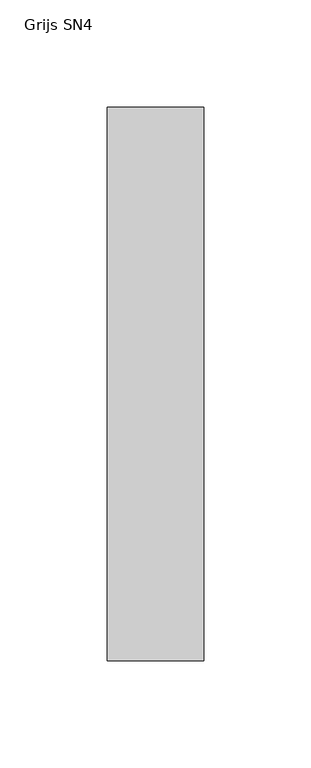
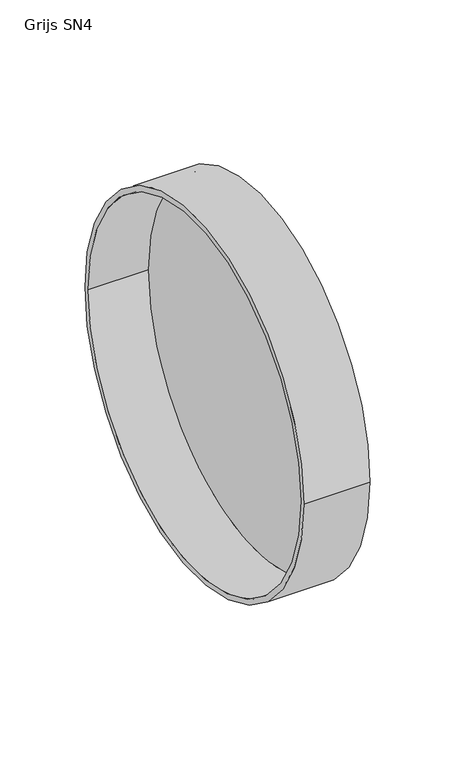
"""IFC4 building model written with IfcOpenShell, lengths in millimetres: pipe fitting geometry, NLRS_52_PIF_UN_SN4 SN8 afsluitkap 1LV_Dyka : Grijs SN4."""

from ifc_helpers import new_model, si_unit, frame, origin, place, context, project, spatial, polyline, circle_curve, source, transform, mapped, element, save
from ifc_brep_helpers import plane_surface, cylinder_surface, revolved_surface, advanced_brep


def grijs_sn4_b06636f2(model_context):
    return source(origin(), model_context, "Body", "AdvancedBrep", [
        advanced_brep(
        [(3.8, -128.8, 0.0), (3.8, 128.8, 0.0), (-41.0, -128.8, 0.0), (-41.0, 128.8, 0.0), (-41.0, -125.0, 0.0), (-41.0, 125.0, 0.0), (0.0, -125.0, 0.0), (0.0, 125.0, 0.0)],
        [
            (0, 1, circle_curve(frame((3.8, 0.0, 0.0), z_axis=(1.0, 0.0, 0.0), x_axis=(0.0, 1.0, 0.0)), 128.8)),
            (1, 0, circle_curve(frame((3.8, 0.0, 0.0), z_axis=(1.0, 0.0, 0.0), x_axis=(0.0, 1.0, 0.0)), 128.8)),
            (2, 3, circle_curve(frame((-41.0, 0.0, 0.0), z_axis=(-1.0, 0.0, 0.0), x_axis=(0.0, 1.0, 0.0)), 128.8)),
            (3, 2, circle_curve(frame((-41.0, 0.0, 0.0), z_axis=(-1.0, 0.0, 0.0), x_axis=(0.0, 1.0, 0.0)), 128.8)),
            (4, 5, circle_curve(frame((-41.0, 0.0, 0.0), z_axis=(1.0, 0.0, 0.0), x_axis=(0.0, 1.0, 0.0)), 125.0)),
            (5, 4, circle_curve(frame((-41.0, 0.0, 0.0), z_axis=(1.0, 0.0, 0.0), x_axis=(0.0, 1.0, 0.0)), 125.0)),
            (0, 2),
            (3, 1),
            (6, 7, circle_curve(frame((0.0, 0.0, 0.0), z_axis=(-1.0, 0.0, 0.0), x_axis=(0.0, 1.0, 0.0)), 125.0)),
            (7, 6, circle_curve(frame((0.0, 0.0, 0.0), z_axis=(-1.0, 0.0, 0.0), x_axis=(0.0, 1.0, 0.0)), 125.0)),
            (7, 5),
            (4, 6),
        ],
        [
            plane_surface(frame((3.8, 128.8, 0.0), z_axis=(1.0, 0.0, 0.0), x_axis=(0.0, 0.0, 1.0))),
            plane_surface(frame((-41.0, 128.8, 0.0), z_axis=(-1.0, 0.0, 0.0), x_axis=(0.0, 0.0, -1.0))),
            cylinder_surface(frame((-41.0, 0.0, 0.0), z_axis=(1.0, 0.0, 0.0), x_axis=(0.0, 1.0, 0.0)), 128.8),
            plane_surface(frame((0.0, 125.0, 0.0), z_axis=(-1.0, 0.0, 0.0), x_axis=(0.0, 0.0, 1.0))),
            revolved_surface(polyline([(0.0, 125.0, 0.0), (-41.0, 125.0, 0.0)]), (-41.0, 0.0, 0.0), (1.0, 0.0, 0.0)),
        ],
        [
            (0, [[1, 2]]),
            (1, [[3, 4], [5, 6]]),
            (2, [[-1, 7, -4, 8]]),
            (2, [[-2, -8, -3, -7]]),
            (3, [[9, 10]]),
            (4, [[-10, 11, -5, 12]]),
            (4, [[-9, -12, -6, -11]]),
        ],
    ),
    ])


if __name__ == "__main__":
    model = new_model("IFC4")
    model_context = context("Model", 3, world=origin())
    ifc_project = project(units=[si_unit("LENGTHUNIT", "METRE", prefix="MILLI")], contexts=[model_context])
    site = spatial("IfcSite", under=ifc_project)
    building = spatial("IfcBuilding", under=site)
    placement = place(None, origin())
    grijs_sn4_shape = grijs_sn4_b06636f2(model_context)
    element("IfcPipeFitting", 1, ObjectType="NLRS_52_PIF_UN_SN4 SN8 afsluitkap 1LV_Dyka : Grijs SN4", at=placement, inside=building, context=model_context, shape_type="MappedRepresentation", body=[
        mapped(grijs_sn4_shape, transform((0.0, 0.0, 0.0), x_axis=(1.0, 0.0, 0.0), y_axis=(0.0, 1.0, 0.0), z_axis=(0.0, 0.0, 1.0))),
    ])
    save(model, "model.ifc")
